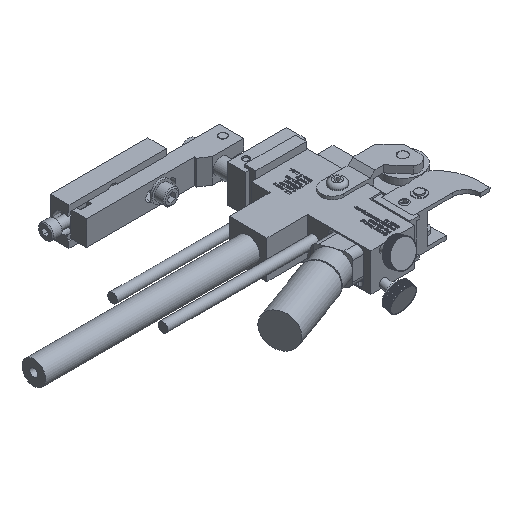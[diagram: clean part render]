
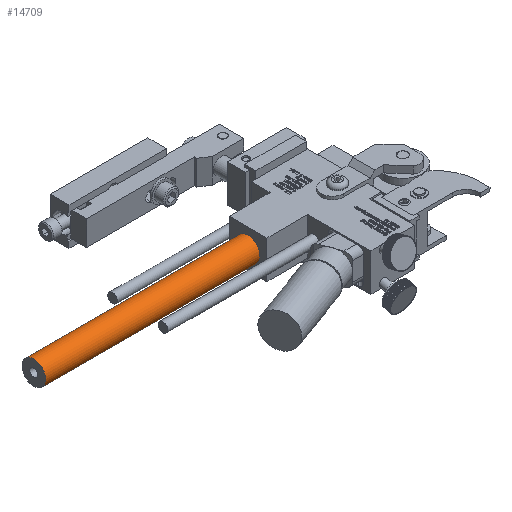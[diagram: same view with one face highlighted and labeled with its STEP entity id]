
A CAD part, isometric view. The second image highlights one B-rep face of the part: STEP entity #14709.
In plain terms, the highlighted cylindrical face has radius 5.969 mm (diameter 11.938 mm), a full revolution.
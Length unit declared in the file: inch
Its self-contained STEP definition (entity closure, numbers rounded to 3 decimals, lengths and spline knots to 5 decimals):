
#14682=CARTESIAN_POINT('',(-1.4995,0.8125,0.375));
#14683=DIRECTION('',(-1.0,0.,0.));
#14684=DIRECTION('',(0.0,0.0,-1.0));
#14685=AXIS2_PLACEMENT_3D('',#14682,#14683,#14684);
#14686=CYLINDRICAL_SURFACE('',#14685,0.235);
#14687=CARTESIAN_POINT('',(-5.7495,0.8125,0.61));
#14688=VERTEX_POINT('',#14687);
#14689=CARTESIAN_POINT('',(-5.7495,0.8125,0.375));
#14690=DIRECTION('',(1.0,0.0,0.0));
#14691=DIRECTION('',(0.0,0.0,-1.0));
#14692=AXIS2_PLACEMENT_3D('',#14689,#14690,#14691);
#14693=CIRCLE('',#14692,0.235);
#14694=EDGE_CURVE('',#14688,#14688,#14693,.T.);
#14695=ORIENTED_EDGE('',*,*,#14694,.T.);
#14696=EDGE_LOOP('',(#14695));
#14697=FACE_OUTER_BOUND('',#14696,.T.);
#14698=CARTESIAN_POINT('',(-1.4995,0.8125,0.61));
#14699=VERTEX_POINT('',#14698);
#14700=CARTESIAN_POINT('',(-1.4995,0.8125,0.375));
#14701=DIRECTION('',(1.0,0.0,0.0));
#14702=DIRECTION('',(0.0,0.0,-1.0));
#14703=AXIS2_PLACEMENT_3D('',#14700,#14701,#14702);
#14704=CIRCLE('',#14703,0.235);
#14705=EDGE_CURVE('',#14699,#14699,#14704,.T.);
#14706=ORIENTED_EDGE('',*,*,#14705,.F.);
#14707=EDGE_LOOP('',(#14706));
#14708=FACE_BOUND('',#14707,.T.);
#14709=ADVANCED_FACE('',(#14697,#14708),#14686,.T.);
